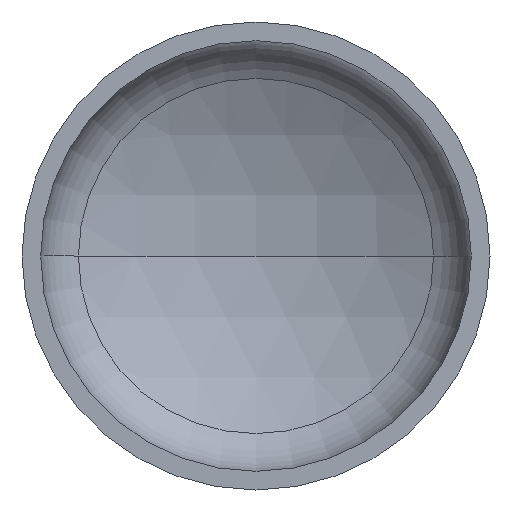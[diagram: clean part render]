
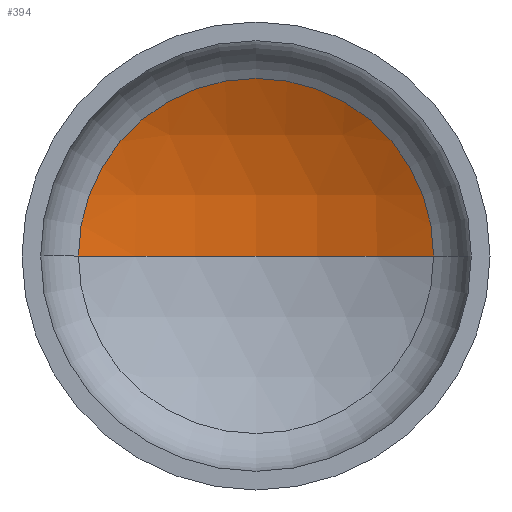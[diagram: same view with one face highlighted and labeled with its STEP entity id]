
A CAD part, front view. The second image highlights one B-rep face of the part: STEP entity #394.
In plain terms, the highlighted spherical face has radius 1280 mm.
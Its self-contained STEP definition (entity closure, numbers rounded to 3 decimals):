
#11 = AXIS2_PLACEMENT_3D ( 'NONE', #384, #247, #406 ) ;
#13 = AXIS2_PLACEMENT_3D ( 'NONE', #167, #339, #202 ) ;
#14 = AXIS2_PLACEMENT_3D ( 'NONE', #270, #73, #294 ) ;
#35 = VERTEX_POINT ( 'NONE', #90 ) ;
#51 = CARTESIAN_POINT ( 'NONE',  ( -607.227, 335.676, 0. ) ) ;
#73 = DIRECTION ( 'NONE',  ( 0., -1., 0. ) ) ;
#79 = VERTEX_POINT ( 'NONE', #313 ) ;
#83 = DIRECTION ( 'NONE',  ( 0., 0., -1. ) ) ;
#90 = CARTESIAN_POINT ( 'NONE',  ( 0., 488.878, 0. ) ) ;
#97 = ORIENTED_EDGE ( 'NONE', *, *, #345, .T. ) ;
#137 = EDGE_LOOP ( 'NONE', ( #154, #141, #97 ) ) ;
#141 = ORIENTED_EDGE ( 'NONE', *, *, #347, .T. ) ;
#148 = VERTEX_POINT ( 'NONE', #51 ) ;
#154 = ORIENTED_EDGE ( 'NONE', *, *, #349, .F. ) ;
#167 = CARTESIAN_POINT ( 'NONE',  ( 0., -791.122, 0. ) ) ;
#176 = CARTESIAN_POINT ( 'NONE',  ( 0., -791.122, 0. ) ) ;
#202 = DIRECTION ( 'NONE',  ( -1., 0., 0. ) ) ;
#234 = CIRCLE ( 'NONE', #11, 1280. ) ;
#247 = DIRECTION ( 'NONE',  ( 0., 0., 1. ) ) ;
#270 = CARTESIAN_POINT ( 'NONE',  ( 0., 335.676, 0. ) ) ;
#278 = AXIS2_PLACEMENT_3D ( 'NONE', #176, #83, #387 ) ;
#285 = FACE_OUTER_BOUND ( 'NONE', #137, .T. ) ;
#294 = DIRECTION ( 'NONE',  ( 1., 0., 0. ) ) ;
#313 = CARTESIAN_POINT ( 'NONE',  ( 607.227, 335.676, 0. ) ) ;
#339 = DIRECTION ( 'NONE',  ( 0., 0., -1. ) ) ;
#345 = EDGE_CURVE ( 'NONE', #79, #148, #369, .T. ) ;
#347 = EDGE_CURVE ( 'NONE', #35, #79, #361, .T. ) ;
#349 = EDGE_CURVE ( 'NONE', #35, #148, #234, .T. ) ;
#361 = CIRCLE ( 'NONE', #13, 1280. ) ;
#369 = CIRCLE ( 'NONE', #14, 607.227 ) ;
#384 = CARTESIAN_POINT ( 'NONE',  ( 0., -791.122, 0. ) ) ;
#387 = DIRECTION ( 'NONE',  ( -1., 0., 0. ) ) ;
#394 = ADVANCED_FACE ( 'NONE', ( #285 ), #395, .F. ) ;
#395 = SPHERICAL_SURFACE ( 'NONE', #278, 1280. ) ;
#406 = DIRECTION ( 'NONE',  ( 1., 0., 0. ) ) ;
